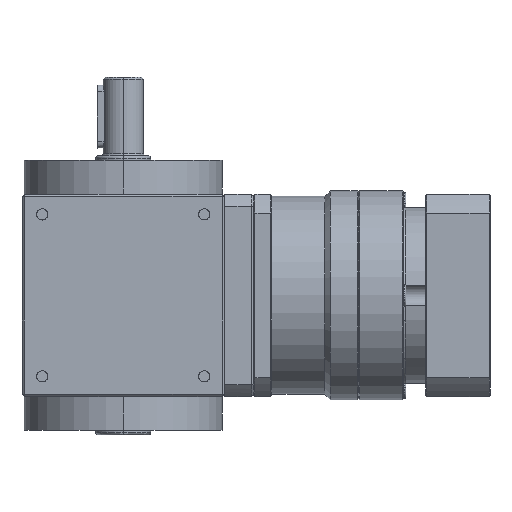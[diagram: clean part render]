
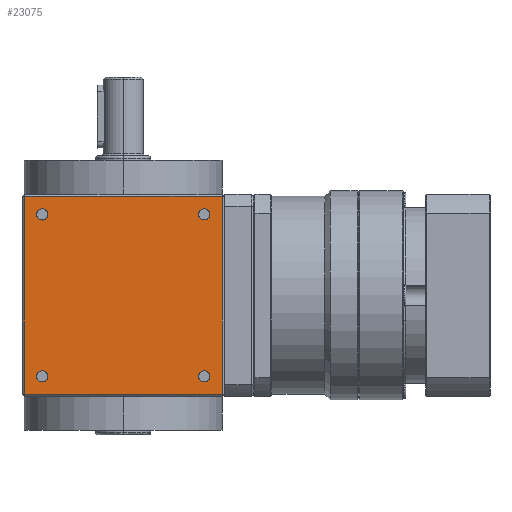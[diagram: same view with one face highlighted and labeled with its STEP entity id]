
A CAD part, left-side view. The second image highlights one B-rep face of the part: STEP entity #23075.
In plain terms, the highlighted planar face has unit normal (-1, 0, 0).
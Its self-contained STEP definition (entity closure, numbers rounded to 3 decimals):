
#209 = DIRECTION ( 'NONE',  ( 0., 0., -1. ) ) ;
#298 = CARTESIAN_POINT ( 'NONE',  ( -45., 36., 33.5 ) ) ;
#486 = EDGE_CURVE ( 'NONE', #9430, #37398, #23391, .T. ) ;
#498 = DIRECTION ( 'NONE',  ( 1., 0., 0. ) ) ;
#765 = ORIENTED_EDGE ( 'NONE', *, *, #21914, .T. ) ;
#1967 = AXIS2_PLACEMENT_3D ( 'NONE', #29110, #3904, #17116 ) ;
#2036 = CARTESIAN_POINT ( 'NONE',  ( -45., 36., -38.5 ) ) ;
#2102 = FACE_BOUND ( 'NONE', #28436, .T. ) ;
#2707 = FACE_BOUND ( 'NONE', #28072, .T. ) ;
#3904 = DIRECTION ( 'NONE',  ( 1., 0., 0. ) ) ;
#4284 = EDGE_CURVE ( 'NONE', #37398, #33381, #37769, .T. ) ;
#4596 = EDGE_CURVE ( 'NONE', #9634, #22818, #32141, .T. ) ;
#4724 = DIRECTION ( 'NONE',  ( 1., 0., 0. ) ) ;
#4901 = AXIS2_PLACEMENT_3D ( 'NONE', #26706, #29128, #22308 ) ;
#5279 = DIRECTION ( 'NONE',  ( 1., 0., 0. ) ) ;
#5685 = CIRCLE ( 'NONE', #24130, 2.5 ) ;
#5688 = CARTESIAN_POINT ( 'NONE',  ( -45., 45., -44. ) ) ;
#5741 = CARTESIAN_POINT ( 'NONE',  ( -45., 36., 36. ) ) ;
#5901 = LINE ( 'NONE', #5688, #40073 ) ;
#6162 = DIRECTION ( 'NONE',  ( 0., 0., 1. ) ) ;
#6607 = CARTESIAN_POINT ( 'NONE',  ( -45., 44., -45. ) ) ;
#7628 = DIRECTION ( 'NONE',  ( 1., 0., 0. ) ) ;
#8988 = VECTOR ( 'NONE', #21082, 1000. ) ;
#9314 = CARTESIAN_POINT ( 'NONE',  ( -45., 45., -45. ) ) ;
#9430 = VERTEX_POINT ( 'NONE', #24530 ) ;
#9479 = VERTEX_POINT ( 'NONE', #2036 ) ;
#9631 = VERTEX_POINT ( 'NONE', #40800 ) ;
#9634 = VERTEX_POINT ( 'NONE', #12548 ) ;
#10054 = CARTESIAN_POINT ( 'NONE',  ( -45., 44., -44. ) ) ;
#11059 = AXIS2_PLACEMENT_3D ( 'NONE', #9314, #40055, #21285 ) ;
#11824 = VERTEX_POINT ( 'NONE', #298 ) ;
#12189 = LINE ( 'NONE', #37160, #8988 ) ;
#12548 = CARTESIAN_POINT ( 'NONE',  ( -45., -36., 38.5 ) ) ;
#13107 = EDGE_LOOP ( 'NONE', ( #36701, #765, #28231, #13566 ) ) ;
#13232 = EDGE_CURVE ( 'NONE', #9631, #9479, #20729, .T. ) ;
#13314 = CIRCLE ( 'NONE', #27826, 2.5 ) ;
#13566 = ORIENTED_EDGE ( 'NONE', *, *, #4284, .T. ) ;
#13579 = ORIENTED_EDGE ( 'NONE', *, *, #32938, .T. ) ;
#13680 = CARTESIAN_POINT ( 'NONE',  ( -45., 45., 44. ) ) ;
#14041 = DIRECTION ( 'NONE',  ( 0., 0., 1. ) ) ;
#14244 = VERTEX_POINT ( 'NONE', #29474 ) ;
#14569 = ORIENTED_EDGE ( 'NONE', *, *, #36740, .T. ) ;
#15388 = DIRECTION ( 'NONE',  ( 0., 0., 1. ) ) ;
#15428 = VERTEX_POINT ( 'NONE', #20182 ) ;
#17116 = DIRECTION ( 'NONE',  ( 0., 0., 1. ) ) ;
#18053 = DIRECTION ( 'NONE',  ( 0., 0., 1. ) ) ;
#18170 = FACE_OUTER_BOUND ( 'NONE', #13107, .T. ) ;
#18707 = EDGE_LOOP ( 'NONE', ( #29722, #13579 ) ) ;
#19675 = CARTESIAN_POINT ( 'NONE',  ( -45., -36., -36. ) ) ;
#20182 = CARTESIAN_POINT ( 'NONE',  ( -45., -36., -33.5 ) ) ;
#20729 = CIRCLE ( 'NONE', #4901, 2.5 ) ;
#21052 = CIRCLE ( 'NONE', #1967, 2.5 ) ;
#21065 = AXIS2_PLACEMENT_3D ( 'NONE', #5741, #24941, #6162 ) ;
#21082 = DIRECTION ( 'NONE',  ( 0., 0., 1. ) ) ;
#21285 = DIRECTION ( 'NONE',  ( 0., 0., 1. ) ) ;
#21412 = EDGE_LOOP ( 'NONE', ( #22682, #39548 ) ) ;
#21472 = PLANE ( 'NONE',  #11059 ) ;
#21914 = EDGE_CURVE ( 'NONE', #26758, #9430, #12189, .T. ) ;
#21944 = AXIS2_PLACEMENT_3D ( 'NONE', #19675, #498, #32272 ) ;
#22308 = DIRECTION ( 'NONE',  ( 0., 0., 1. ) ) ;
#22682 = ORIENTED_EDGE ( 'NONE', *, *, #4596, .T. ) ;
#22818 = VERTEX_POINT ( 'NONE', #31849 ) ;
#23075 = ADVANCED_FACE ( 'NONE', ( #18170, #2102, #30572, #2707, #27904 ), #21472, .T. ) ;
#23276 = CIRCLE ( 'NONE', #21944, 2.5 ) ;
#23391 = LINE ( 'NONE', #13680, #36091 ) ;
#24130 = AXIS2_PLACEMENT_3D ( 'NONE', #33745, #5279, #18053 ) ;
#24492 = DIRECTION ( 'NONE',  ( 0., -1., 0. ) ) ;
#24530 = CARTESIAN_POINT ( 'NONE',  ( -45., -44., 44. ) ) ;
#24883 = VECTOR ( 'NONE', #209, 1000. ) ;
#24941 = DIRECTION ( 'NONE',  ( 1., 0., 0. ) ) ;
#25516 = ORIENTED_EDGE ( 'NONE', *, *, #39261, .T. ) ;
#26024 = CARTESIAN_POINT ( 'NONE',  ( -45., -36., 36. ) ) ;
#26396 = CARTESIAN_POINT ( 'NONE',  ( -45., -36., -38.5 ) ) ;
#26706 = CARTESIAN_POINT ( 'NONE',  ( -45., 36., -36. ) ) ;
#26758 = VERTEX_POINT ( 'NONE', #37688 ) ;
#27826 = AXIS2_PLACEMENT_3D ( 'NONE', #26024, #7628, #14041 ) ;
#27888 = EDGE_CURVE ( 'NONE', #22818, #9634, #13314, .T. ) ;
#27904 = FACE_BOUND ( 'NONE', #18707, .T. ) ;
#27988 = CARTESIAN_POINT ( 'NONE',  ( -45., -36., 36. ) ) ;
#28072 = EDGE_LOOP ( 'NONE', ( #29902, #30662 ) ) ;
#28164 = VERTEX_POINT ( 'NONE', #26396 ) ;
#28231 = ORIENTED_EDGE ( 'NONE', *, *, #486, .T. ) ;
#28436 = EDGE_LOOP ( 'NONE', ( #14569, #25516 ) ) ;
#28953 = EDGE_CURVE ( 'NONE', #28164, #15428, #23276, .T. ) ;
#29110 = CARTESIAN_POINT ( 'NONE',  ( -45., 36., -36. ) ) ;
#29128 = DIRECTION ( 'NONE',  ( 1., 0., 0. ) ) ;
#29300 = EDGE_CURVE ( 'NONE', #15428, #28164, #34488, .T. ) ;
#29474 = CARTESIAN_POINT ( 'NONE',  ( -45., 36., 38.5 ) ) ;
#29722 = ORIENTED_EDGE ( 'NONE', *, *, #13232, .T. ) ;
#29902 = ORIENTED_EDGE ( 'NONE', *, *, #29300, .T. ) ;
#30572 = FACE_BOUND ( 'NONE', #21412, .T. ) ;
#30662 = ORIENTED_EDGE ( 'NONE', *, *, #28953, .T. ) ;
#31520 = EDGE_CURVE ( 'NONE', #33381, #26758, #5901, .T. ) ;
#31849 = CARTESIAN_POINT ( 'NONE',  ( -45., -36., 33.5 ) ) ;
#32141 = CIRCLE ( 'NONE', #40712, 2.5 ) ;
#32272 = DIRECTION ( 'NONE',  ( 0., 0., 1. ) ) ;
#32903 = CIRCLE ( 'NONE', #21065, 2.5 ) ;
#32938 = EDGE_CURVE ( 'NONE', #9479, #9631, #21052, .T. ) ;
#33381 = VERTEX_POINT ( 'NONE', #10054 ) ;
#33745 = CARTESIAN_POINT ( 'NONE',  ( -45., 36., 36. ) ) ;
#33889 = DIRECTION ( 'NONE',  ( 1., 0., 0. ) ) ;
#34488 = CIRCLE ( 'NONE', #36461, 2.5 ) ;
#35562 = DIRECTION ( 'NONE',  ( 0., 1., 0. ) ) ;
#36091 = VECTOR ( 'NONE', #35562, 1000. ) ;
#36461 = AXIS2_PLACEMENT_3D ( 'NONE', #37388, #33889, #40682 ) ;
#36701 = ORIENTED_EDGE ( 'NONE', *, *, #31520, .T. ) ;
#36740 = EDGE_CURVE ( 'NONE', #14244, #11824, #5685, .T. ) ;
#37160 = CARTESIAN_POINT ( 'NONE',  ( -45., -44., -45. ) ) ;
#37388 = CARTESIAN_POINT ( 'NONE',  ( -45., -36., -36. ) ) ;
#37398 = VERTEX_POINT ( 'NONE', #38222 ) ;
#37688 = CARTESIAN_POINT ( 'NONE',  ( -45., -44., -44. ) ) ;
#37769 = LINE ( 'NONE', #6607, #24883 ) ;
#38222 = CARTESIAN_POINT ( 'NONE',  ( -45., 44., 44. ) ) ;
#39261 = EDGE_CURVE ( 'NONE', #11824, #14244, #32903, .T. ) ;
#39548 = ORIENTED_EDGE ( 'NONE', *, *, #27888, .T. ) ;
#40055 = DIRECTION ( 'NONE',  ( -1., 0., 0. ) ) ;
#40073 = VECTOR ( 'NONE', #24492, 1000. ) ;
#40682 = DIRECTION ( 'NONE',  ( 0., 0., 1. ) ) ;
#40712 = AXIS2_PLACEMENT_3D ( 'NONE', #27988, #4724, #15388 ) ;
#40800 = CARTESIAN_POINT ( 'NONE',  ( -45., 36., -33.5 ) ) ;
